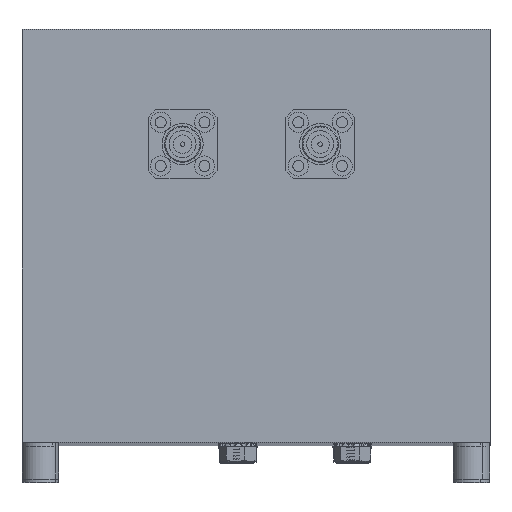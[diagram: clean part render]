
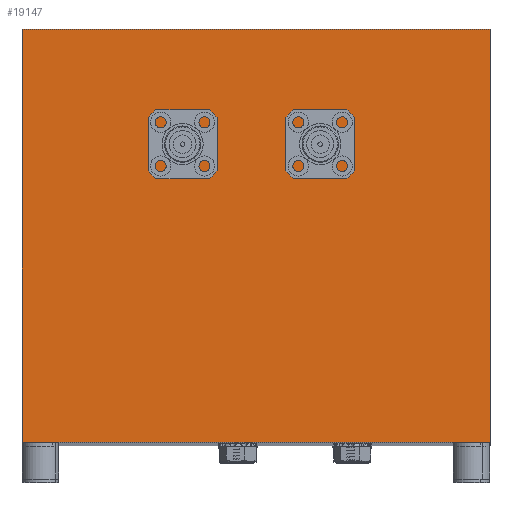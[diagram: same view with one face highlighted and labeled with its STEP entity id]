
A CAD part, top view. The second image highlights one B-rep face of the part: STEP entity #19147.
In plain terms, the highlighted planar face has unit normal (0, 0, 1).
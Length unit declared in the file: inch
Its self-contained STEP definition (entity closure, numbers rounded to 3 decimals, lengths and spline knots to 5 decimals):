
#106 = ORIENTED_EDGE ( 'NONE', *, *, #12877, .F. ) ;
#614 = DIRECTION ( 'NONE',  ( 1., 0., 0. ) ) ;
#851 = DIRECTION ( 'NONE',  ( 1., 0., 0. ) ) ;
#879 = DIRECTION ( 'NONE',  ( -1., 0., 0. ) ) ;
#1136 = DIRECTION ( 'NONE',  ( 1., 0., 0. ) ) ;
#1204 = ORIENTED_EDGE ( 'NONE', *, *, #5949, .F. ) ;
#1596 = EDGE_CURVE ( 'NONE', #18614, #3959, #32228, .T. ) ;
#2341 = ORIENTED_EDGE ( 'NONE', *, *, #17470, .F. ) ;
#2406 = VECTOR ( 'NONE', #30297, 39.37008 ) ;
#2805 = LINE ( 'NONE', #3636, #2406 ) ;
#3576 = CARTESIAN_POINT ( 'NONE',  ( 2.00787, 3.54331, 8.46457 ) ) ;
#3636 = CARTESIAN_POINT ( 'NONE',  ( -2.00787, 3.54331, 8.46457 ) ) ;
#3662 = CARTESIAN_POINT ( 'NONE',  ( 2.00787, 3.54331, 8.46457 ) ) ;
#3959 = VERTEX_POINT ( 'NONE', #30493 ) ;
#4578 = CIRCLE ( 'NONE', #20529, 0.07874 ) ;
#5123 = EDGE_LOOP ( 'NONE', ( #10987, #106 ) ) ;
#5949 = EDGE_CURVE ( 'NONE', #27651, #26552, #34585, .T. ) ;
#6221 = CARTESIAN_POINT ( 'NONE',  ( -0.70866, 2.55906, 8.46457 ) ) ;
#6648 = AXIS2_PLACEMENT_3D ( 'NONE', #11735, #19807, #16766 ) ;
#6894 = VERTEX_POINT ( 'NONE', #30375 ) ;
#7033 = CARTESIAN_POINT ( 'NONE',  ( 2.00787, 0., 8.46457 ) ) ;
#7084 = DIRECTION ( 'NONE',  ( 0., -1., 0. ) ) ;
#7392 = CIRCLE ( 'NONE', #10951, 0.07874 ) ;
#9328 = VERTEX_POINT ( 'NONE', #18597 ) ;
#9435 = EDGE_CURVE ( 'NONE', #11029, #26552, #21910, .T. ) ;
#9514 = EDGE_CURVE ( 'NONE', #9328, #27651, #13974, .T. ) ;
#9525 = DIRECTION ( 'NONE',  ( 0., 0., 1. ) ) ;
#10225 = DIRECTION ( 'NONE',  ( 1., 0., 0. ) ) ;
#10951 = AXIS2_PLACEMENT_3D ( 'NONE', #30825, #15006, #1136 ) ;
#10987 = ORIENTED_EDGE ( 'NONE', *, *, #17267, .F. ) ;
#11029 = VERTEX_POINT ( 'NONE', #21843 ) ;
#11112 = FACE_BOUND ( 'NONE', #5123, .T. ) ;
#11735 = CARTESIAN_POINT ( 'NONE',  ( -0.62992, 2.55906, 8.46457 ) ) ;
#12225 = DIRECTION ( 'NONE',  ( 1., 0., 0. ) ) ;
#12877 = EDGE_CURVE ( 'NONE', #31851, #6894, #4578, .T. ) ;
#13974 = LINE ( 'NONE', #3662, #14406 ) ;
#14406 = VECTOR ( 'NONE', #851, 39.37008 ) ;
#14424 = CARTESIAN_POINT ( 'NONE',  ( 0.47244, 2.55906, 8.46457 ) ) ;
#14708 = CARTESIAN_POINT ( 'NONE',  ( 0.55118, 2.55906, 8.46457 ) ) ;
#14812 = VECTOR ( 'NONE', #614, 39.37008 ) ;
#15006 = DIRECTION ( 'NONE',  ( 0., 0., 1. ) ) ;
#15522 = CARTESIAN_POINT ( 'NONE',  ( -0.62992, 2.55906, 8.46457 ) ) ;
#15541 = EDGE_CURVE ( 'NONE', #9328, #11029, #2805, .T. ) ;
#16766 = DIRECTION ( 'NONE',  ( 1., 0., 0. ) ) ;
#16810 = ORIENTED_EDGE ( 'NONE', *, *, #15541, .T. ) ;
#17071 = ORIENTED_EDGE ( 'NONE', *, *, #1596, .F. ) ;
#17267 = EDGE_CURVE ( 'NONE', #6894, #31851, #19550, .T. ) ;
#17470 = EDGE_CURVE ( 'NONE', #3959, #18614, #7392, .T. ) ;
#18597 = CARTESIAN_POINT ( 'NONE',  ( -2.00787, 3.54331, 8.46457 ) ) ;
#18614 = VERTEX_POINT ( 'NONE', #14424 ) ;
#19147 = ADVANCED_FACE ( 'NONE', ( #11112, #28292, #29150 ), #30350, .F. ) ;
#19177 = CARTESIAN_POINT ( 'NONE',  ( 2.00787, 0., 8.46457 ) ) ;
#19550 = CIRCLE ( 'NONE', #6648, 0.07874 ) ;
#19807 = DIRECTION ( 'NONE',  ( 0., 0., 1. ) ) ;
#20309 = VECTOR ( 'NONE', #7084, 39.37008 ) ;
#20529 = AXIS2_PLACEMENT_3D ( 'NONE', #15522, #34610, #10225 ) ;
#21843 = CARTESIAN_POINT ( 'NONE',  ( -2.00787, 0., 8.46457 ) ) ;
#21910 = LINE ( 'NONE', #19177, #14812 ) ;
#21993 = DIRECTION ( 'NONE',  ( 0., 0., -1. ) ) ;
#26243 = AXIS2_PLACEMENT_3D ( 'NONE', #3576, #21993, #879 ) ;
#26324 = CARTESIAN_POINT ( 'NONE',  ( 2.00787, 3.54331, 8.46457 ) ) ;
#26552 = VERTEX_POINT ( 'NONE', #7033 ) ;
#27006 = ORIENTED_EDGE ( 'NONE', *, *, #9514, .F. ) ;
#27651 = VERTEX_POINT ( 'NONE', #26324 ) ;
#28292 = FACE_BOUND ( 'NONE', #29813, .T. ) ;
#28325 = CARTESIAN_POINT ( 'NONE',  ( 2.00787, 3.54331, 8.46457 ) ) ;
#29150 = FACE_OUTER_BOUND ( 'NONE', #33763, .T. ) ;
#29813 = EDGE_LOOP ( 'NONE', ( #2341, #17071 ) ) ;
#30297 = DIRECTION ( 'NONE',  ( 0., -1., 0. ) ) ;
#30350 = PLANE ( 'NONE',  #26243 ) ;
#30375 = CARTESIAN_POINT ( 'NONE',  ( -0.55118, 2.55906, 8.46457 ) ) ;
#30493 = CARTESIAN_POINT ( 'NONE',  ( 0.62992, 2.55906, 8.46457 ) ) ;
#30825 = CARTESIAN_POINT ( 'NONE',  ( 0.55118, 2.55906, 8.46457 ) ) ;
#30929 = AXIS2_PLACEMENT_3D ( 'NONE', #14708, #9525, #12225 ) ;
#31851 = VERTEX_POINT ( 'NONE', #6221 ) ;
#32228 = CIRCLE ( 'NONE', #30929, 0.07874 ) ;
#32575 = ORIENTED_EDGE ( 'NONE', *, *, #9435, .T. ) ;
#33763 = EDGE_LOOP ( 'NONE', ( #32575, #1204, #27006, #16810 ) ) ;
#34585 = LINE ( 'NONE', #28325, #20309 ) ;
#34610 = DIRECTION ( 'NONE',  ( 0., 0., 1. ) ) ;
